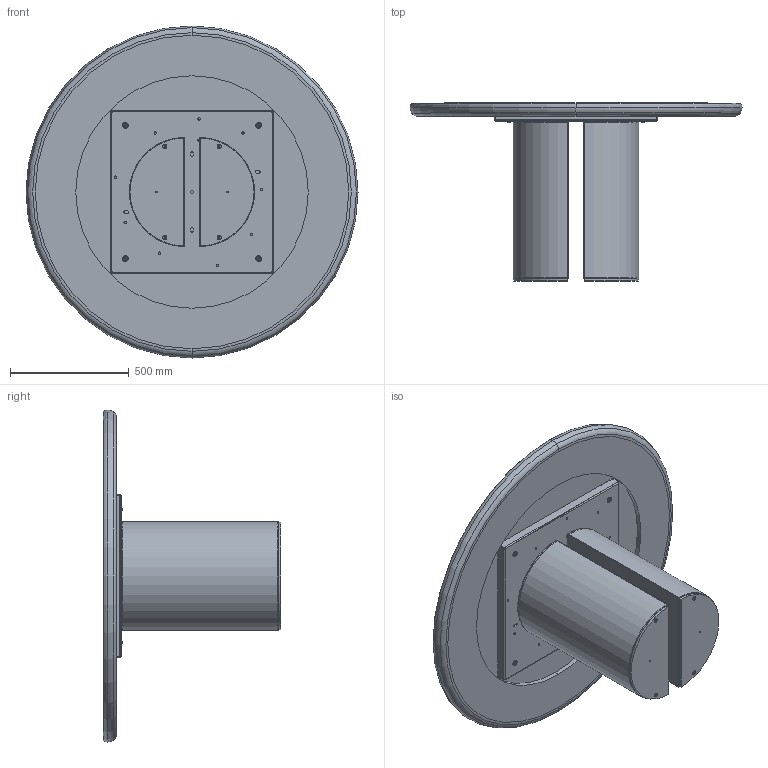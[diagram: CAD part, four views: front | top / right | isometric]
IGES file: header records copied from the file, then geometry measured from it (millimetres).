
Start section: SolidWorks IGES file using analytic representation for surfaces
Global section: file name: Y:\eforma\TECNICO\SOLIDWORKS\E-FORMA\1-TAVOLI\DORA\08 modelli 3D web\DR06K_Dora_d.140_King.IGS; native system: SolidWorks 2022; preprocessor: SolidWorks 2022; author: eforma.tech; date: 240801.150903; units: millimetre
Bounding box: 1400 x 750 x 1400 mm (x, y, z)
Volume: 76921080.4 mm3; surface area: 11348294.5 mm2
Topology: 37 solids, 37 shells, 1068 faces, 2572 edges, 1564 vertices
Faces by surface type: revolution 594, plane 474
